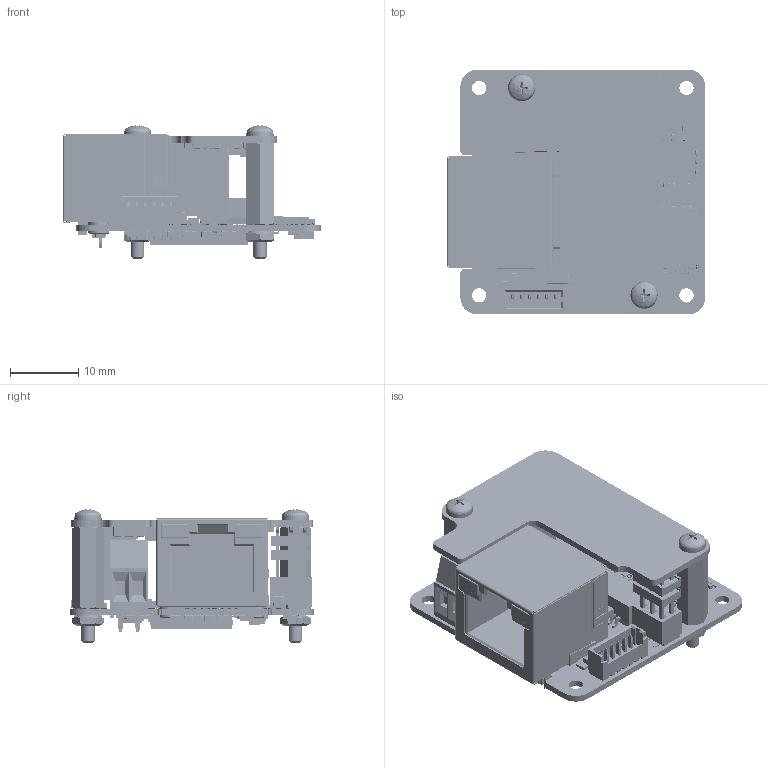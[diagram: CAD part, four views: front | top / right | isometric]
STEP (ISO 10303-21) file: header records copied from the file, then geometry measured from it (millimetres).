
FILE_DESCRIPTION(/* description */ ('ZB PlatinenKam_GigE-4SB_IMX900_PoE add-on'),/* implementation_level */ '2;1');
FILE_NAME(/* name */ 'KSM_306-23-17-00-00_ZB PlatinenKam_GigE-4SB_IMX568_PoE add-on.stp',/* time_stamp */ '2025-06-06T00:54:28+02:00',/* author */ ('khw'),/* organization */ ('TIS/ Germany'),/* preprocessor_version */ 'ST-DEVELOPER v20',/* originating_system */ 'Autodesk Inventor 2025',/* authorisation */ '520025 mm^3');
FILE_SCHEMA (('AUTOMOTIVE_DESIGN { 1 0 10303 214 3 1 1 }'));
Products named in the file (6): KSM_306-23-17-00-00_ZB PlatinenKam_GigE-4SB_IMX568_PoE add-on; Sensorboard_4G-JD0_0100_GigE4-SB_IMX568_03-06-25; PoE add-on-Board; IA-Distanzbolzen M2x1; Linsenschraube M2x4; Sechskanntmutter M2
Assembly tree (8 placements, depth 2):
  KSM_306-23-17-00-00_ZB PlatinenKam_GigE-4SB_IMX568_PoE add-on
    Sensorboard_4G-JD0_0100_GigE4-SB_IMX568_03-06-25
    PoE add-on-Board
    IA-Distanzbolzen M2x1  x2
    Linsenschraube M2x4  x2
    Sechskanntmutter M2  x2
Bounding box: 37.99 x 36.01 x 19.59 mm (x, y, z)
Volume: 7149 mm3; surface area: 10911.2 mm2
Topology: 18 solids, 18 shells, 15950 faces, 37221 edges, 19700 vertices
Faces by surface type: cylinder 6638, plane 5904, sphere 1658, torus 1654, cone 62, bspline 34
Full cylindrical faces by diameter (mm): 0.3 x1, 0.5 x6, 0.739 x1, 1.05 x2, 1.2 x2, 1.567 x4, 1.783 x2, 2 x4, 2.032 x2, 2.1 x6, 2.3 x2
Entity records: 446543 total; most frequent: DIRECTION 80431, CARTESIAN_POINT 72302, ORIENTED_EDGE 70798, EDGE_CURVE 35399, AXIS2_PLACEMENT_3D 29288, LINE 21855, VECTOR 21855, VERTEX_POINT 19595
